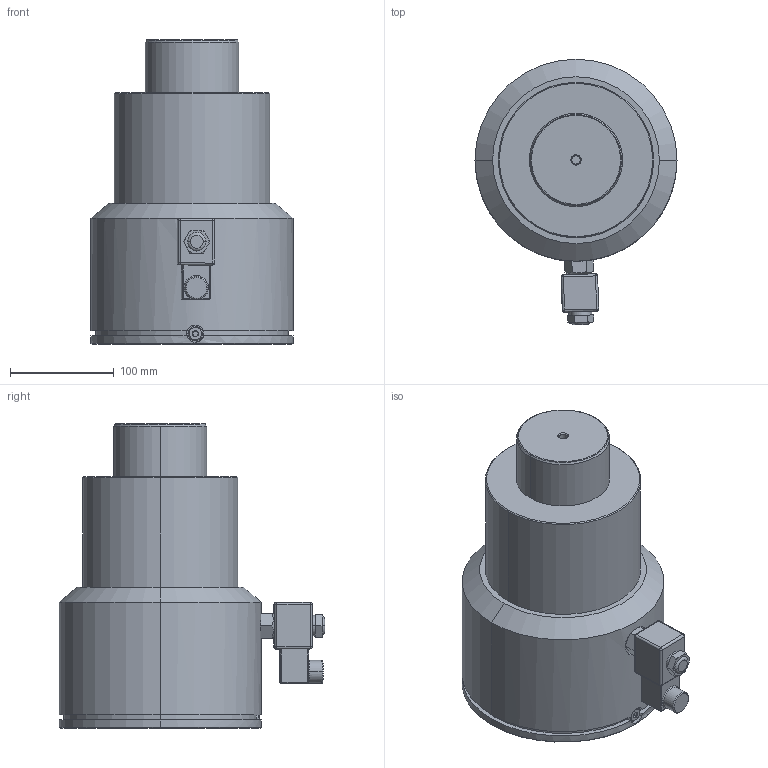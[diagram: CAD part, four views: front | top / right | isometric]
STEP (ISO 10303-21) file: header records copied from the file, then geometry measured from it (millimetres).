
FILE_DESCRIPTION(('CATIA V5 STEP Exchange'),'2;1');
FILE_NAME('W:\CATALOGO GENERAL 2015\CATIA\CILINDRO PARADA MONOCUERPO\TPCM7500x50.stp','2023-11-30T08:27:35+00:00',('none'),('none'),'CATIA Version 5 Release 17 (IN-10)','CATIA V5 STEP AP203','none');
FILE_SCHEMA(('CONFIG_CONTROL_DESIGN'));
Length unit declared in the file: millimetre
Products named in the file (1): Stop-cylinder monolitic
Assembly tree (5 placements, depth 2):
  Stop-cylinder monolitic
    #56
    #1212
    #1364
    #1678
    #5220
Bounding box: 195 x 256.31 x 294 mm (x, y, z)
Volume: 6275329.2 mm3; surface area: 277182.8 mm2
Topology: 9 solids, 9 shells, 250 faces, 552 edges, 311 vertices
Faces by surface type: plane 67, cylinder 60, cone 58, torus 33, revolution 18, sphere 12, bspline 2
Entity records: 6957 total; most frequent: CARTESIAN_POINT 1896, ORIENTED_EDGE 1060, DIRECTION 843, EDGE_CURVE 530, AXIS2_PLACEMENT_3D 436, VERTEX_POINT 311, EDGE_LOOP 263, ADVANCED_FACE 250
